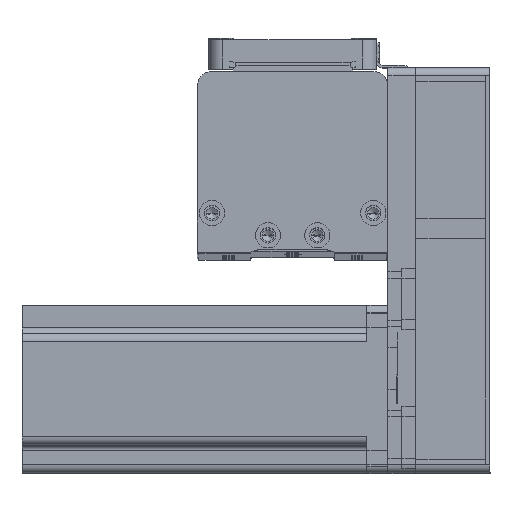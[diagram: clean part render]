
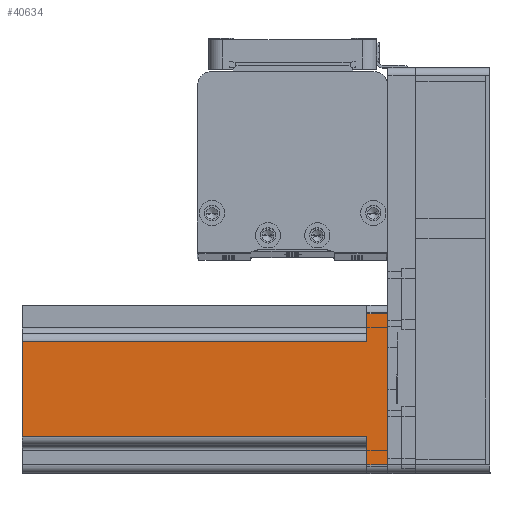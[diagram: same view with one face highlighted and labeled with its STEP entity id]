
A CAD part, top view. The second image highlights one B-rep face of the part: STEP entity #40634.
In plain terms, the highlighted planar face has unit normal (0, 0, 1) as drawn and (0, 1, 0) by its records, which use the part's own axes.
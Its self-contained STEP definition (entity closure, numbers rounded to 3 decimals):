
#670 = LINE ( 'NONE', #49943, #20791 ) ;
#1735 = CARTESIAN_POINT ( 'NONE',  ( 17., 30., 130.7 ) ) ;
#2559 = CARTESIAN_POINT ( 'NONE',  ( -27., 30., 0. ) ) ;
#4002 = VECTOR ( 'NONE', #9778, 1000. ) ;
#4069 = LINE ( 'NONE', #26889, #31214 ) ;
#8451 = LINE ( 'NONE', #13827, #19143 ) ;
#9771 = CARTESIAN_POINT ( 'NONE',  ( 30., 30., 130.7 ) ) ;
#9778 = DIRECTION ( 'NONE',  ( 1., 0., 0. ) ) ;
#10848 = VERTEX_POINT ( 'NONE', #33276 ) ;
#13777 = DIRECTION ( 'NONE',  ( 1., 0., 0. ) ) ;
#13827 = CARTESIAN_POINT ( 'NONE',  ( 30., 30., 130.7 ) ) ;
#14322 = CARTESIAN_POINT ( 'NONE',  ( 17., 30., 7.5 ) ) ;
#14874 = EDGE_CURVE ( 'NONE', #23377, #34844, #49862, .T. ) ;
#15540 = DIRECTION ( 'NONE',  ( 0., 0., 1. ) ) ;
#16098 = EDGE_CURVE ( 'NONE', #19673, #49404, #39543, .T. ) ;
#19143 = VECTOR ( 'NONE', #38030, 1000. ) ;
#19209 = ORIENTED_EDGE ( 'NONE', *, *, #50140, .T. ) ;
#19673 = VERTEX_POINT ( 'NONE', #45367 ) ;
#20791 = VECTOR ( 'NONE', #33900, 1000. ) ;
#20831 = VECTOR ( 'NONE', #15540, 1000. ) ;
#21161 = ORIENTED_EDGE ( 'NONE', *, *, #16098, .T. ) ;
#23377 = VERTEX_POINT ( 'NONE', #28968 ) ;
#23541 = DIRECTION ( 'NONE',  ( 0., 0., 1. ) ) ;
#23715 = ORIENTED_EDGE ( 'NONE', *, *, #25970, .F. ) ;
#24538 = ORIENTED_EDGE ( 'NONE', *, *, #48674, .F. ) ;
#24929 = EDGE_CURVE ( 'NONE', #46140, #23377, #670, .T. ) ;
#25970 = EDGE_CURVE ( 'NONE', #26997, #49404, #8451, .T. ) ;
#26889 = CARTESIAN_POINT ( 'NONE',  ( 20., 30., 7.5 ) ) ;
#26997 = VERTEX_POINT ( 'NONE', #1735 ) ;
#27102 = ORIENTED_EDGE ( 'NONE', *, *, #36219, .T. ) ;
#27521 = CARTESIAN_POINT ( 'NONE',  ( 27., 30., 7.5 ) ) ;
#27915 = EDGE_CURVE ( 'NONE', #34844, #10848, #41077, .T. ) ;
#28822 = DIRECTION ( 'NONE',  ( -1., 0., 0. ) ) ;
#28968 = CARTESIAN_POINT ( 'NONE',  ( 27., 30., 0. ) ) ;
#29332 = ORIENTED_EDGE ( 'NONE', *, *, #14874, .T. ) ;
#30969 = DIRECTION ( 'NONE',  ( -1., 0., 0. ) ) ;
#31214 = VECTOR ( 'NONE', #30969, 1000. ) ;
#31306 = LINE ( 'NONE', #32386, #51487 ) ;
#31775 = AXIS2_PLACEMENT_3D ( 'NONE', #9771, #37981, #13777 ) ;
#31797 = CARTESIAN_POINT ( 'NONE',  ( -17., 30., 130.7 ) ) ;
#32386 = CARTESIAN_POINT ( 'NONE',  ( 17., 30., 130.7 ) ) ;
#32755 = ORIENTED_EDGE ( 'NONE', *, *, #24929, .T. ) ;
#32770 = ORIENTED_EDGE ( 'NONE', *, *, #27915, .T. ) ;
#33276 = CARTESIAN_POINT ( 'NONE',  ( -27., 30., 7.5 ) ) ;
#33372 = EDGE_LOOP ( 'NONE', ( #19209, #21161, #23715, #27102, #24538, #32755, #29332, #32770 ) ) ;
#33900 = DIRECTION ( 'NONE',  ( 0., 0., -1. ) ) ;
#33928 = CARTESIAN_POINT ( 'NONE',  ( -20., 30., 7.5 ) ) ;
#34844 = VERTEX_POINT ( 'NONE', #2559 ) ;
#34929 = LINE ( 'NONE', #33928, #4002 ) ;
#36219 = EDGE_CURVE ( 'NONE', #26997, #42648, #31306, .T. ) ;
#37981 = DIRECTION ( 'NONE',  ( 0., -1., 0. ) ) ;
#38030 = DIRECTION ( 'NONE',  ( -1., 0., 0. ) ) ;
#38430 = FACE_OUTER_BOUND ( 'NONE', #33372, .T. ) ;
#39121 = VECTOR ( 'NONE', #28822, 1000. ) ;
#39543 = LINE ( 'NONE', #51821, #49016 ) ;
#39720 = CARTESIAN_POINT ( 'NONE',  ( -27., 30., 130.7 ) ) ;
#40634 = ADVANCED_FACE ( 'NONE', ( #38430 ), #45905, .F. ) ;
#41077 = LINE ( 'NONE', #39720, #20831 ) ;
#42648 = VERTEX_POINT ( 'NONE', #14322 ) ;
#45367 = CARTESIAN_POINT ( 'NONE',  ( -17., 30., 7.5 ) ) ;
#45905 = PLANE ( 'NONE',  #31775 ) ;
#46140 = VERTEX_POINT ( 'NONE', #27521 ) ;
#48674 = EDGE_CURVE ( 'NONE', #46140, #42648, #4069, .T. ) ;
#48781 = DIRECTION ( 'NONE',  ( 0., 0., -1. ) ) ;
#48942 = CARTESIAN_POINT ( 'NONE',  ( 30., 30., 0. ) ) ;
#49016 = VECTOR ( 'NONE', #23541, 1000. ) ;
#49404 = VERTEX_POINT ( 'NONE', #31797 ) ;
#49862 = LINE ( 'NONE', #48942, #39121 ) ;
#49943 = CARTESIAN_POINT ( 'NONE',  ( 27., 30., 130.7 ) ) ;
#50140 = EDGE_CURVE ( 'NONE', #10848, #19673, #34929, .T. ) ;
#51487 = VECTOR ( 'NONE', #48781, 1000. ) ;
#51821 = CARTESIAN_POINT ( 'NONE',  ( -17., 30., 130.7 ) ) ;
